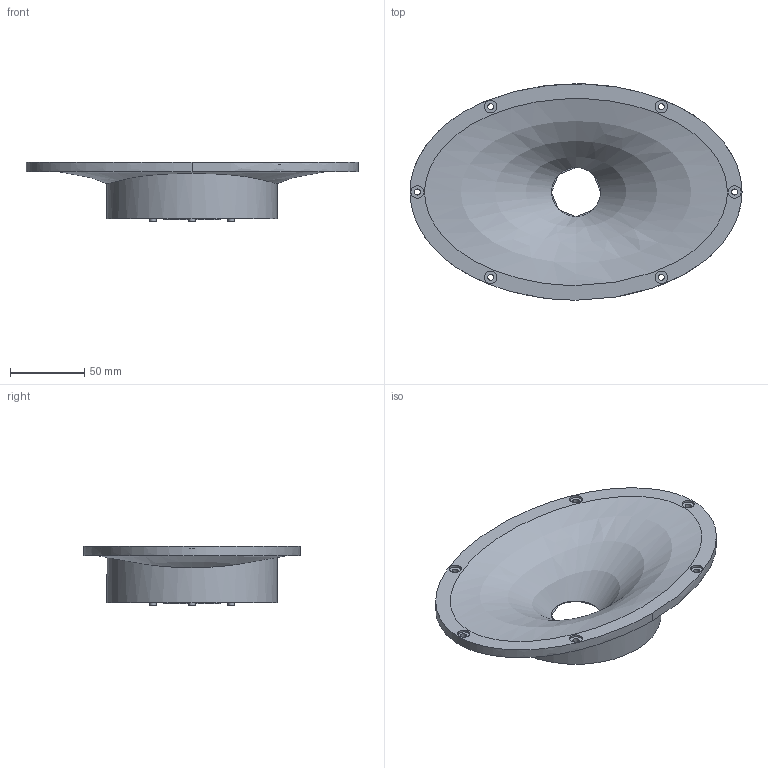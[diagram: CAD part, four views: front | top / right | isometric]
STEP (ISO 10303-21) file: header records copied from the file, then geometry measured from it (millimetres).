
FILE_DESCRIPTION(/* description */ (''),/* implementation_level */ '2;1');
FILE_NAME(/* name */ 'C:/Users/Admin/Desktop/templates/SB26/8/8 vE_nops.step',/* time_stamp */ '2022-06-06T19:53:50-06:00',/* author */ (''),/* organization */ (''),/* preprocessor_version */ 'ST-DEVELOPER v19',/* originating_system */ 'Autodesk Translation Framework v11.7.0.108',/* authorisation */ '');
FILE_SCHEMA (('AUTOMOTIVE_DESIGN { 1 0 10303 214 3 1 1 }'));
Length unit declared in the file: inch
Products named in the file (1): 8x1.5 E SB26
Bounding box: 223.01 x 145.39 x 40.13 mm (x, y, z)
Volume: 326510 mm3; surface area: 68416.6 mm2
Topology: 1 solids, 1 shells, 266 faces, 713 edges, 473 vertices
Faces by surface type: bspline 150, plane 95, cylinder 21
Full cylindrical faces by diameter (mm): 3.302 x2, 4.064 x6, 4.318 x4, 8.382 x6, 33.02 x1, 38.1 x1, 114.3 x1
Entity records: 10549 total; most frequent: CARTESIAN_POINT 4885, ORIENTED_EDGE 1426, EDGE_CURVE 713, DIRECTION 663, VERTEX_POINT 473, LINE 333, VECTOR 333, B_SPLINE_CURVE_WITH_KNOTS 332
